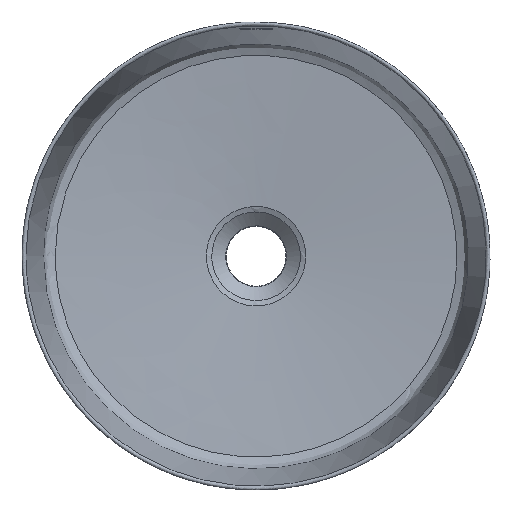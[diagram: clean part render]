
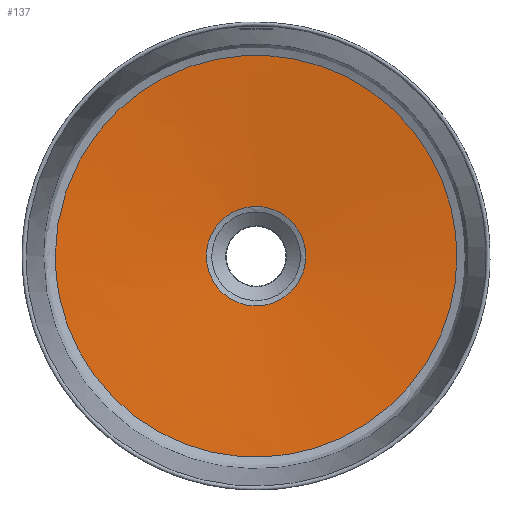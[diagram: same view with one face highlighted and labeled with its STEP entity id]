
A CAD part, top view. The second image highlights one B-rep face of the part: STEP entity #137.
In plain terms, the highlighted free-form (B-spline) face has degree [1, 2] with [2, 9] control points.
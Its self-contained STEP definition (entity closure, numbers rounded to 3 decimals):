
#137=ADVANCED_FACE('',(#458),#4542,.T.);
#458=FACE_OUTER_BOUND('',#779,.T.);
#779=EDGE_LOOP('',(#1163,#1164,#1165,#1166));
#1163=ORIENTED_EDGE('',*,*,#2621,.T.);
#1164=ORIENTED_EDGE('',*,*,#2622,.F.);
#1165=ORIENTED_EDGE('',*,*,#2621,.F.);
#1166=ORIENTED_EDGE('',*,*,#2609,.F.);
#2609=EDGE_CURVE('',#4084,#4084,#3576,.T.);
#2621=EDGE_CURVE('',#4084,#4091,#3586,.T.);
#2622=EDGE_CURVE('',#4091,#4091,#3587,.T.);
#3576=(
BOUNDED_CURVE()
B_SPLINE_CURVE(2,(#39109,#39110,#39111,#39112,#39113,#39114,#39115,#39116,
#39117),.UNSPECIFIED.,.T.,.F.)
B_SPLINE_CURVE_WITH_KNOTS((3,2,2,2,3),(0.,60.035,120.07,
180.104,240.139),.UNSPECIFIED.)
CURVE()
GEOMETRIC_REPRESENTATION_ITEM()
RATIONAL_B_SPLINE_CURVE((1.,0.707,1.,0.707,1.,0.707,
1.,0.707,1.))
REPRESENTATION_ITEM('')
);
#3586=(
BOUNDED_CURVE()
B_SPLINE_CURVE(1,(#39183,#39184),.UNSPECIFIED.,.F.,.F.)
B_SPLINE_CURVE_WITH_KNOTS((2,2),(3.261,119.936),
 .UNSPECIFIED.)
CURVE()
GEOMETRIC_REPRESENTATION_ITEM()
RATIONAL_B_SPLINE_CURVE((1.,1.))
REPRESENTATION_ITEM('')
);
#3587=(
BOUNDED_CURVE()
B_SPLINE_CURVE(2,(#39185,#39186,#39187,#39188,#39189,#39190,#39191,#39192,
#39193),.UNSPECIFIED.,.T.,.F.)
B_SPLINE_CURVE_WITH_KNOTS((3,2,2,2,3),(-970.442,-727.831,
-485.221,-242.61,0.),.UNSPECIFIED.)
CURVE()
GEOMETRIC_REPRESENTATION_ITEM()
RATIONAL_B_SPLINE_CURVE((1.,0.707,1.,0.707,1.,0.707,
1.,0.707,1.))
REPRESENTATION_ITEM('')
);
#4084=VERTEX_POINT('',#38710);
#4091=VERTEX_POINT('',#38717);
#4542=(
BOUNDED_SURFACE()
B_SPLINE_SURFACE(1,2,((#5255,#5256,#5257,#5258,#5259,#5260,#5261,#5262,
#5263),(#5264,#5265,#5266,#5267,#5268,#5269,#5270,#5271,#5272)),
 .UNSPECIFIED.,.F.,.F.,.F.)
B_SPLINE_SURFACE_WITH_KNOTS((2,2),(3,2,2,2,3),(3.261,119.936),
(0.,242.61,485.221,727.831,970.442),
 .UNSPECIFIED.)
GEOMETRIC_REPRESENTATION_ITEM()
RATIONAL_B_SPLINE_SURFACE(((1.,0.707,1.,0.707,1.,
0.707,1.,0.707,1.),(1.,0.707,1.,0.707,
1.,0.707,1.,0.707,1.)))
REPRESENTATION_ITEM('')
SURFACE()
);
#5255=CARTESIAN_POINT('',(21546.096,1341.326,-6977.14));
#5256=CARTESIAN_POINT('',(21546.096,1303.107,-6977.14));
#5257=CARTESIAN_POINT('',(21584.316,1303.107,-6977.14));
#5258=CARTESIAN_POINT('',(21622.535,1303.107,-6977.14));
#5259=CARTESIAN_POINT('',(21622.535,1341.326,-6977.14));
#5260=CARTESIAN_POINT('',(21622.535,1379.545,-6977.14));
#5261=CARTESIAN_POINT('',(21584.315,1379.545,-6977.14));
#5262=CARTESIAN_POINT('',(21546.096,1379.545,-6977.14));
#5263=CARTESIAN_POINT('',(21546.096,1341.326,-6977.14));
#5264=CARTESIAN_POINT('',(21429.865,1341.326,-6966.971));
#5265=CARTESIAN_POINT('',(21429.865,1186.875,-6966.971));
#5266=CARTESIAN_POINT('',(21584.316,1186.875,-6966.971));
#5267=CARTESIAN_POINT('',(21738.766,1186.875,-6966.971));
#5268=CARTESIAN_POINT('',(21738.766,1341.326,-6966.971));
#5269=CARTESIAN_POINT('',(21738.766,1495.777,-6966.971));
#5270=CARTESIAN_POINT('',(21584.315,1495.777,-6966.971));
#5271=CARTESIAN_POINT('',(21429.865,1495.777,-6966.971));
#5272=CARTESIAN_POINT('',(21429.865,1341.326,-6966.971));
#38710=CARTESIAN_POINT('',(21546.096,1341.326,-6977.14));
#38717=CARTESIAN_POINT('',(21429.865,1341.326,-6966.971));
#39109=CARTESIAN_POINT('',(21546.096,1341.326,-6977.14));
#39110=CARTESIAN_POINT('',(21546.096,1303.107,-6977.14));
#39111=CARTESIAN_POINT('',(21584.316,1303.107,-6977.14));
#39112=CARTESIAN_POINT('',(21622.535,1303.107,-6977.14));
#39113=CARTESIAN_POINT('',(21622.535,1341.326,-6977.14));
#39114=CARTESIAN_POINT('',(21622.535,1379.545,-6977.14));
#39115=CARTESIAN_POINT('',(21584.315,1379.545,-6977.14));
#39116=CARTESIAN_POINT('',(21546.096,1379.545,-6977.14));
#39117=CARTESIAN_POINT('',(21546.096,1341.326,-6977.14));
#39183=CARTESIAN_POINT('',(21546.096,1341.326,-6977.14));
#39184=CARTESIAN_POINT('',(21429.865,1341.326,-6966.971));
#39185=CARTESIAN_POINT('',(21429.865,1341.326,-6966.971));
#39186=CARTESIAN_POINT('',(21429.865,1495.777,-6966.971));
#39187=CARTESIAN_POINT('',(21584.315,1495.777,-6966.971));
#39188=CARTESIAN_POINT('',(21738.766,1495.777,-6966.971));
#39189=CARTESIAN_POINT('',(21738.766,1341.326,-6966.971));
#39190=CARTESIAN_POINT('',(21738.766,1186.875,-6966.971));
#39191=CARTESIAN_POINT('',(21584.316,1186.875,-6966.971));
#39192=CARTESIAN_POINT('',(21429.865,1186.875,-6966.971));
#39193=CARTESIAN_POINT('',(21429.865,1341.326,-6966.971));
